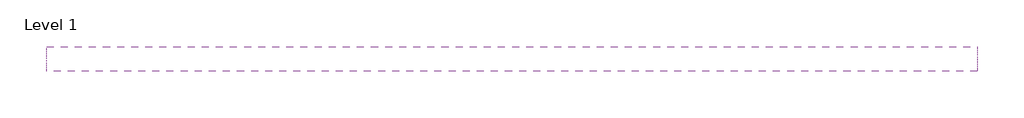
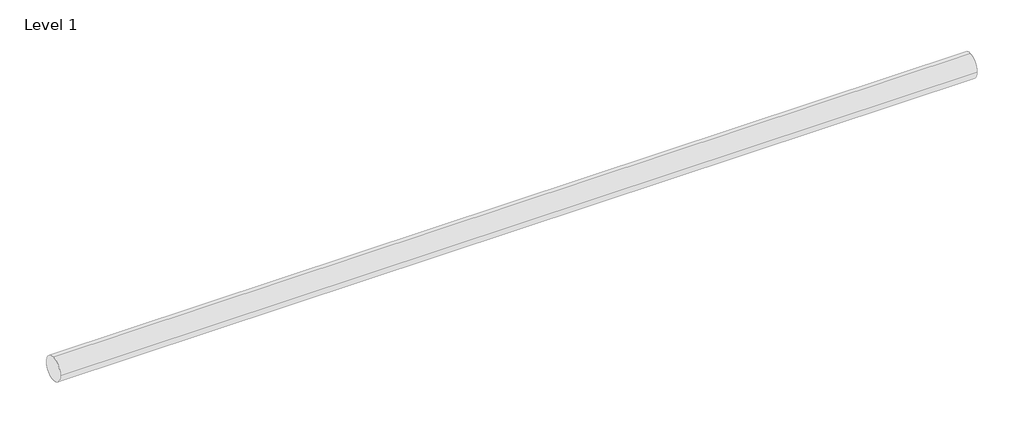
# One storey: 1 pipe segment.
"""IFC4 building model written with IfcOpenShell, lengths in millimetres."""

from ifc_helpers import new_model, si_unit, point, frame, frame_2d, origin, place, context, project, spatial, circle_curve, trimmed, segment, composite_curve, outline, extrude, element, save

model = new_model("IFC4")

# Units and contexts
model_context = context("Model", 3, world=origin())
ifc_project = project(units=[si_unit("LENGTHUNIT", "METRE", prefix="MILLI")], contexts=[model_context])

# Site, building, storey
site = spatial("IfcSite", under=ifc_project)
building = spatial("IfcBuilding", under=site)
storey = spatial("IfcBuildingStorey", under=building, Name="Level 1", Elevation=0.0)

# Pipe segment
placement = place(None, origin())
element("IfcPipeSegment", 1, ObjectType="Pipe_PlainEnded 6D046_160mm Pipe and Fittings, PVC-U_UDS", at=placement, inside=storey, context=model_context, shape_type="SweptSolid", body=[
    extrude(outline(composite_curve([segment(trimmed(circle_curve(frame_2d((674.6507268, 2750.0)), 80.0), [point((594.6507268, 2750.0))], [point((674.6507268, 2830.0))], False, "CARTESIAN"), True, "CONTINUOUS"), segment(trimmed(circle_curve(frame_2d((674.6507268, 2750.0)), 80.0), [point((674.6507268, 2830.0))], [point((754.6507268, 2750.0))], False, "CARTESIAN"), True, "CONTINUOUS"), segment(trimmed(circle_curve(frame_2d((674.6507268, 2750.0)), 80.0), [point((754.6507268, 2750.0))], [point((674.6507268, 2670.0))], False, "CARTESIAN"), True, "CONTINUOUS"), segment(trimmed(circle_curve(frame_2d((674.6507268, 2750.0)), 80.0), [point((674.6507268, 2670.0))], [point((594.6507268, 2750.0))], False, "CARTESIAN"), True, "CONTINUOUS")], self_intersect=False)), frame((-7173.4892209, 0.0, 0.0), z_axis=(1.0, 0.0, 0.0), x_axis=(0.0, 1.0, 0.0)), (0.0, 0.0, 1.0), 6000.0),
])

save(model, "model.ifc")
